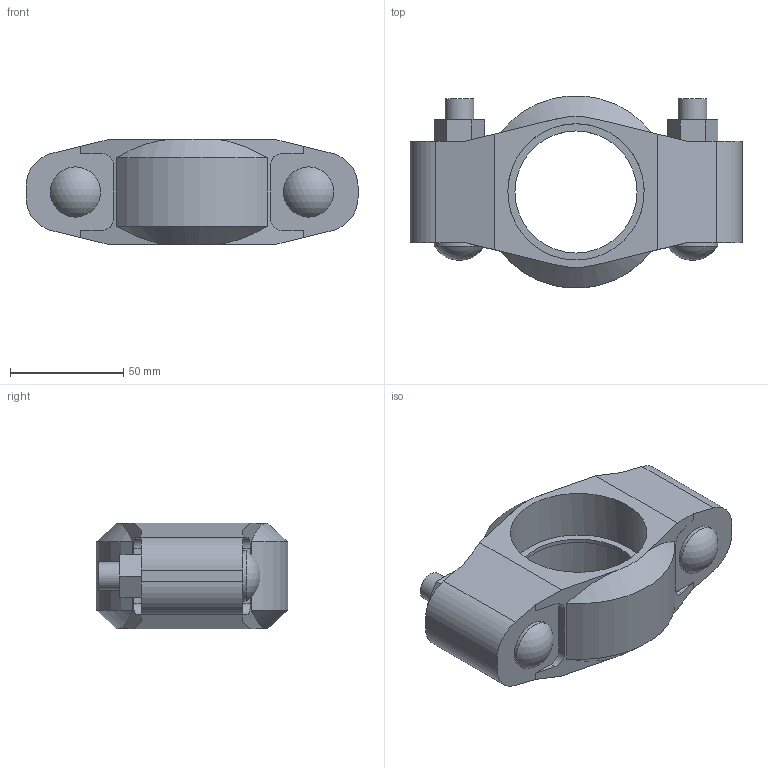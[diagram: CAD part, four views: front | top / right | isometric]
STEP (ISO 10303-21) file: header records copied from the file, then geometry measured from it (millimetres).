
FILE_DESCRIPTION(/* description */ ('VIC COUPLING STYLE 07 RIGID','CAx-IF Rec.Pracs.---Representation and Presentation of Product Manufacturing Information (PMI)---4.0---2014-10-13'),/* implementation_level */ '2;1');
FILE_NAME(/* name */ 'C:\Users\kkamble\Desktop\KIRAN\2022\Updated Couplings\007\Victaulic_IPS_Coupling Rigid_Style 07 (OGS)\Victaulic_IPS_Coupling Rigid_Style 07 (OGS)_2 (50).stp',/* time_stamp */ '2022-03-25T09:56:12+05:00',/* author */ ('jheald'),/* organization */ ('Victaulic'),/* preprocessor_version */ 'ST-DEVELOPER v17.2',/* originating_system */ 'Autodesk Inventor 2019',/* authorisation */ '');
FILE_SCHEMA (('AP242_MANAGED_MODEL_BASED_3D_ENGINEERING_MIM_LF { 1 0 10303 442 1 1 4 }'));
Length unit declared in the file: inch
Products named in the file (1): 07-02.0
Bounding box: 146.81 x 84.8 x 46.74 mm (x, y, z)
Volume: 230244.4 mm3; surface area: 47766.6 mm2
Topology: 1 solids, 3 shells, 87 faces, 239 edges, 162 vertices
Faces by surface type: plane 54, cylinder 27, cone 4, sphere 2
Full cylindrical faces by diameter (mm): 12.7 x4, 22.225 x2, 53.975 x1, 60.325 x2
Entity records: 3036 total; most frequent: CARTESIAN_POINT 522, DIRECTION 507, ORIENTED_EDGE 478, EDGE_CURVE 239, AXIS2_PLACEMENT_3D 175, VERTEX_POINT 162, LINE 157, VECTOR 157
